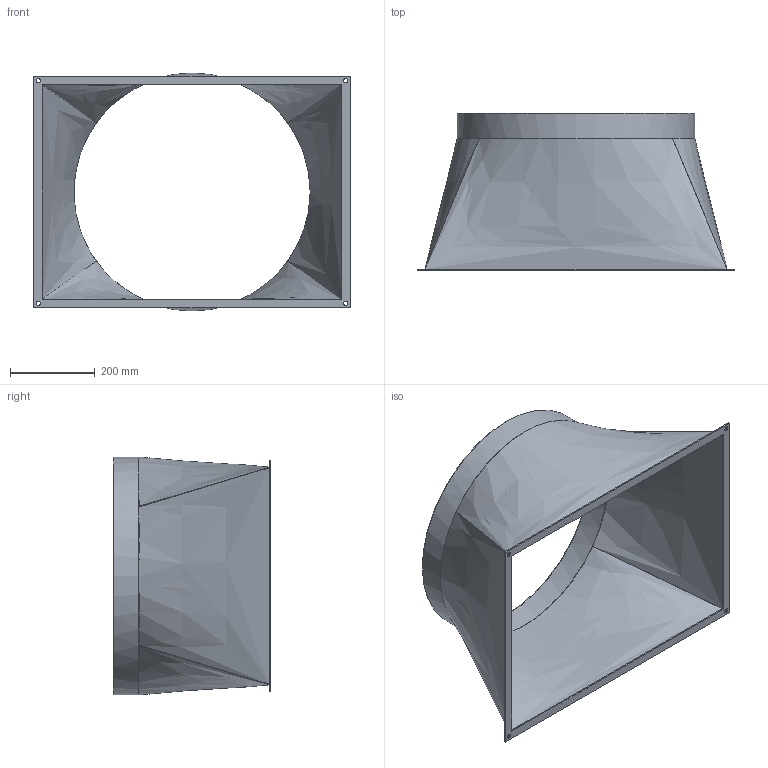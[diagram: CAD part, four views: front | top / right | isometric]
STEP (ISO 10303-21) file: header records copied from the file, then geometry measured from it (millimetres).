
FILE_DESCRIPTION(/* description */ (''),/* implementation_level */ '2;1');
FILE_NAME(/* name */ 'Z:\Output\KWL-US_2600_S-08341-001.stp',/* time_stamp */ '2020-05-11T10:16:21+02:00',/* author */ ('engineering1'),/* organization */ (''),/* preprocessor_version */ 'ST-DEVELOPER v17.2',/* originating_system */ 'Autodesk Inventor 2019',/* authorisation */ '');
FILE_SCHEMA (('AUTOMOTIVE_DESIGN { 1 0 10303 214 3 1 1 }'));
Length unit declared in the file: millimetre
Products named in the file (1): KWLUS-1
Bounding box: 746 x 370 x 560 mm (x, y, z)
Volume: 1672117.6 mm3; surface area: 1631179.9 mm2
Topology: 1 solids, 1 shells, 26 faces, 83 edges, 61 vertices
Faces by surface type: plane 12, bspline 8, cylinder 6
Full cylindrical faces by diameter (mm): 10 x4, 556 x1, 560 x1
Entity records: 1458 total; most frequent: CARTESIAN_POINT 698, ORIENTED_EDGE 166, DIRECTION 118, EDGE_CURVE 83, VERTEX_POINT 61, AXIS2_PLACEMENT_3D 42, EDGE_LOOP 38, LINE 34
